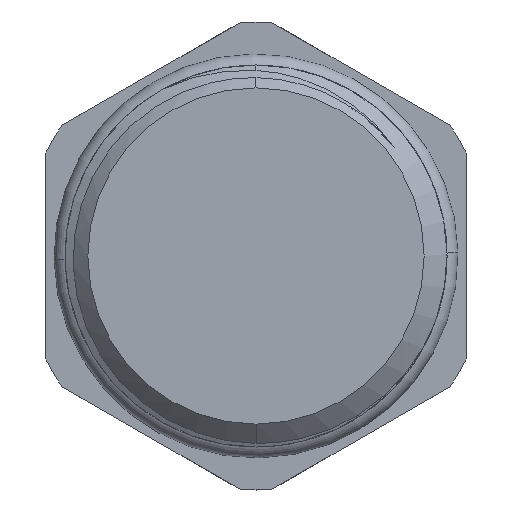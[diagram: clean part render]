
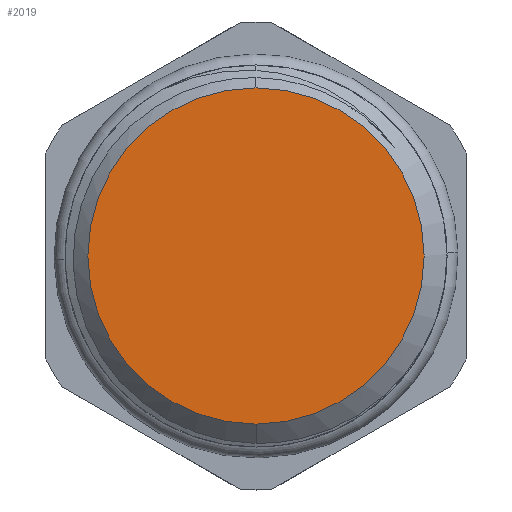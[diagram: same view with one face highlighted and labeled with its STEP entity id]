
A CAD part, front view. The second image highlights one B-rep face of the part: STEP entity #2019.
In plain terms, the highlighted planar face has unit normal (0, -1, 0).
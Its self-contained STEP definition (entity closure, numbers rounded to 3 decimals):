
#135 = FACE_OUTER_BOUND ( 'NONE', #1695, .T. ) ;
#192 = AXIS2_PLACEMENT_3D ( 'NONE', #2754, #2732, #2708 ) ;
#537 = EDGE_CURVE ( 'NONE', #2759, #1343, #3111, .T. ) ;
#555 = PLANE ( 'NONE',  #1549 ) ;
#641 = CARTESIAN_POINT ( 'NONE',  ( 4.831, -6.171, 24.5 ) ) ;
#987 = CARTESIAN_POINT ( 'NONE',  ( -3.969, -6.171, 15.7 ) ) ;
#1262 = EDGE_CURVE ( 'NONE', #1343, #2759, #1515, .T. ) ;
#1343 = VERTEX_POINT ( 'NONE', #987 ) ;
#1515 = CIRCLE ( 'NONE', #192, 8.8 ) ;
#1549 = AXIS2_PLACEMENT_3D ( 'NONE', #641, #3004, #3173 ) ;
#1606 = DIRECTION ( 'NONE',  ( 0., 1., 0. ) ) ;
#1625 = CARTESIAN_POINT ( 'NONE',  ( -3.969, -6.171, 24.5 ) ) ;
#1695 = EDGE_LOOP ( 'NONE', ( #2170, #2831 ) ) ;
#2019 = ADVANCED_FACE ( 'NONE', ( #135 ), #555, .F. ) ;
#2170 = ORIENTED_EDGE ( 'NONE', *, *, #537, .F. ) ;
#2402 = CARTESIAN_POINT ( 'NONE',  ( -3.969, -6.171, 33.3 ) ) ;
#2403 = AXIS2_PLACEMENT_3D ( 'NONE', #1625, #1606, #2684 ) ;
#2684 = DIRECTION ( 'NONE',  ( 0., 0., 1. ) ) ;
#2708 = DIRECTION ( 'NONE',  ( 0., 0., 1. ) ) ;
#2732 = DIRECTION ( 'NONE',  ( 0., 1., 0. ) ) ;
#2754 = CARTESIAN_POINT ( 'NONE',  ( -3.969, -6.171, 24.5 ) ) ;
#2759 = VERTEX_POINT ( 'NONE', #2402 ) ;
#2831 = ORIENTED_EDGE ( 'NONE', *, *, #1262, .F. ) ;
#3004 = DIRECTION ( 'NONE',  ( 0., 1., 0. ) ) ;
#3111 = CIRCLE ( 'NONE', #2403, 8.8 ) ;
#3173 = DIRECTION ( 'NONE',  ( 0., 0., 1. ) ) ;
